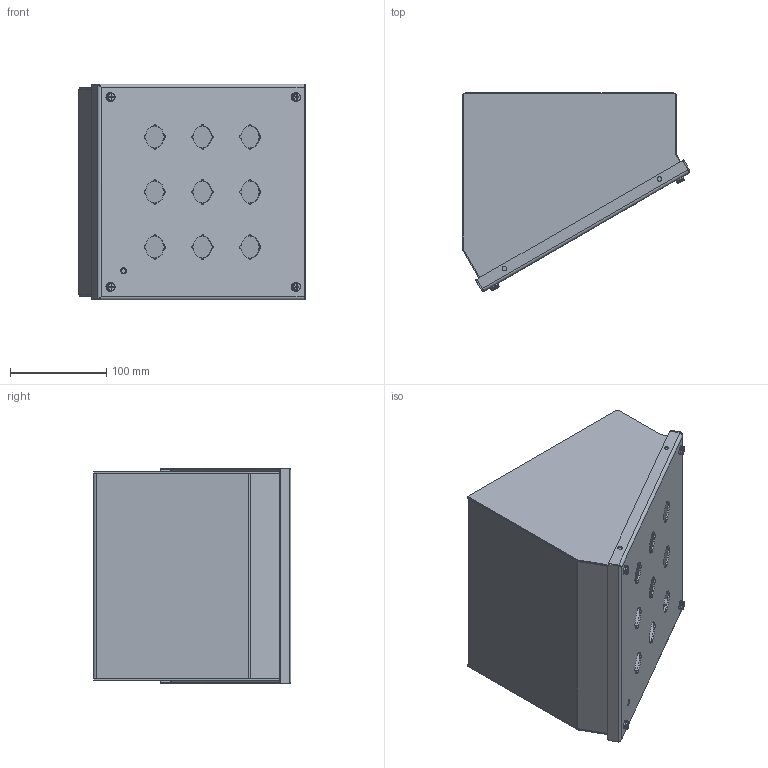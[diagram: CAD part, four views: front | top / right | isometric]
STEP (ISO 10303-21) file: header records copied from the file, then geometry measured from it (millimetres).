
FILE_DESCRIPTION((''),'2;1');
FILE_NAME('MODEL-296_ASM','2021-06-08T10:24:12',('mikek'),('SAGINAW CONTROL & ENGINEERING'),'CREO PARAMETRIC BY PTC INC, 2017260','CREO PARAMETRIC BY PTC INC, 2017260','');
FILE_SCHEMA(('AUTOMOTIVE_DESIGN { 1 0 10303 214 1 1 1 1 }'));
Length unit declared in the file: inch
Products named in the file (14): MODEL-296-BDY; MODEL-296-DR; 100063; 100983; 102534; MODEL-296-GSKT; 100009; CH-ELJ_SUBPANEL; 102479; CH-ELJ_SUBPANEL-SUBASSEMBLY_ASM; 120706; MODEL-296-R-SD; MODEL-296-L-SD; MODEL-296_ASM
Assembly tree (26 placements, depth 3):
  MODEL-296_ASM
    MODEL-296-BDY
    MODEL-296-DR
    100063
    100983  x4
    102534  x4
    MODEL-296-GSKT
    100009  x5
    CH-ELJ_SUBPANEL-SUBASSEMBLY_ASM
      CH-ELJ_SUBPANEL
      102479  x4
    120706
    MODEL-296-R-SD
    MODEL-296-L-SD
Bounding box: 235.51 x 205.26 x 223.84 mm (x, y, z)
Volume: 446630.2 mm3; surface area: 577967.5 mm2
Topology: 28 solids, 28 shells, 1157 faces, 2926 edges, 1704 vertices
Faces by surface type: cylinder 452, plane 389, bspline 168, torus 96, cone 44, sphere 8
Entity records: 29920 total; most frequent: CARTESIAN_POINT 5021, DIRECTION 3613, ORIENTED_EDGE 3292, EDGE_CURVE 1646, PRESENTATION_STYLE_ASSIGNMENT 1561, STYLED_ITEM 1561, CURVE_STYLE 1482, AXIS2_PLACEMENT_3D 1417
